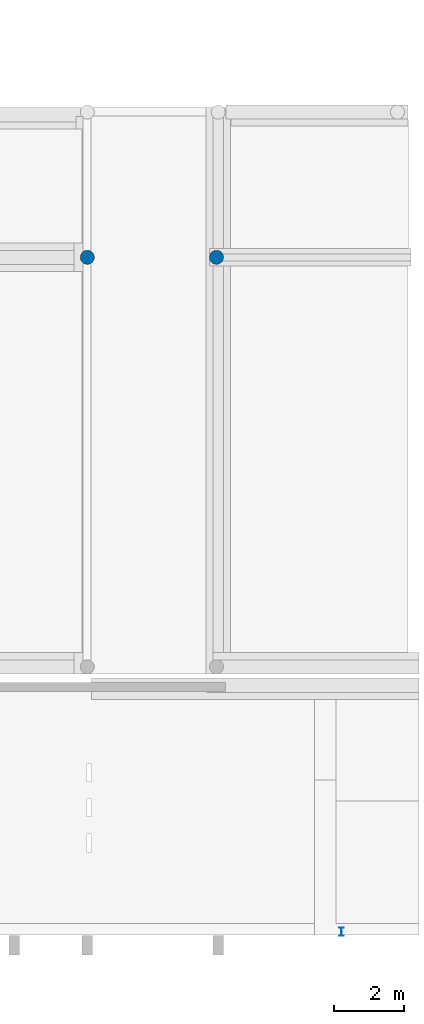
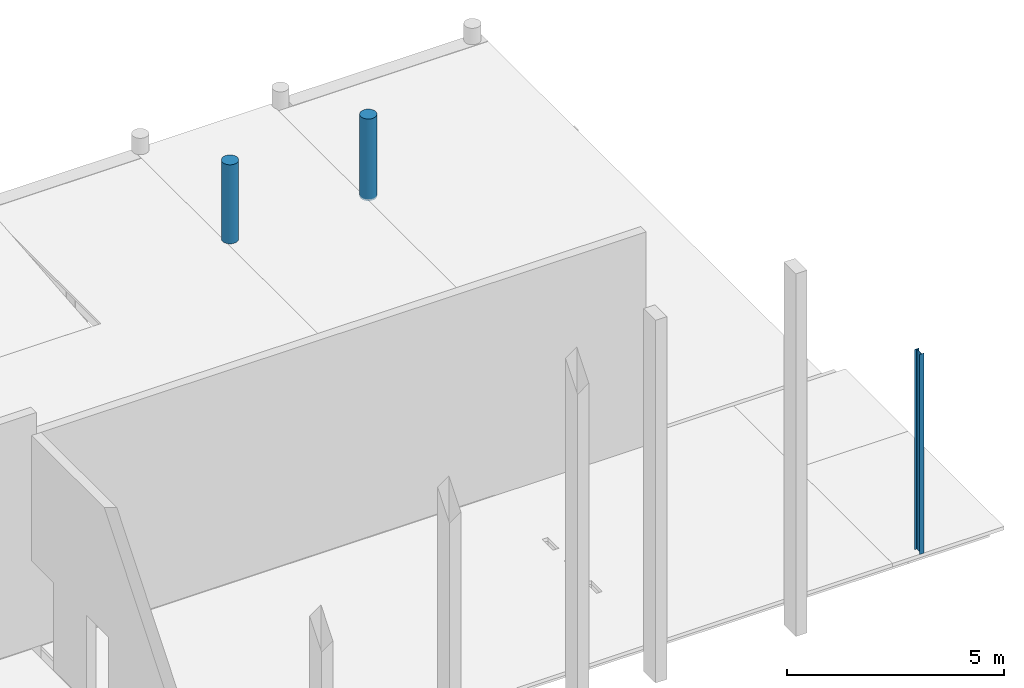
# One storey, part 2 of 9: 3 columns.
"""IFC2X3 building model written with IfcOpenShell, lengths in millimetres."""

from ifc_helpers import new_model, entity, si_unit, converted_unit, derived_unit, direction, frame, frame_2d, origin, place, context, subcontext, project, spatial, polyline, circle_curve, parameter, trimmed, segment, composite_curve, circle, outline, extrude, source, transform, mapped, material, type_object, type_shapes, element, save


model = new_model("IFC2X3")

# Units and contexts
model_context = context("Model", 3, precision=0.01, world=origin(), true_north=direction((6.12303176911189e-17, 1.0)))
body_context = subcontext(model_context, "Body", "Model", "MODEL_VIEW")
ifc_project = project(units=[si_unit("LENGTHUNIT", "METRE", prefix="MILLI"), si_unit("AREAUNIT", "SQUARE_METRE"), si_unit("VOLUMEUNIT", "CUBIC_METRE"), converted_unit("PLANEANGLEUNIT", "DEGREE", entity("IfcRatioMeasure", 0.0174532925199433), si_unit("PLANEANGLEUNIT", "RADIAN"), dimensions=[0, 0, 0, 0, 0, 0, 0]), si_unit("MASSUNIT", "GRAM", prefix="KILO"), derived_unit("MASSDENSITYUNIT", [(si_unit("MASSUNIT", "GRAM", prefix="KILO"), 1), (si_unit("LENGTHUNIT", "METRE"), -3)]), si_unit("TIMEUNIT", "SECOND"), si_unit("FREQUENCYUNIT", "HERTZ"), si_unit("THERMODYNAMICTEMPERATUREUNIT", "DEGREE_CELSIUS"), derived_unit("THERMALTRANSMITTANCEUNIT", [(si_unit("MASSUNIT", "GRAM", prefix="KILO"), 1), (si_unit("THERMODYNAMICTEMPERATUREUNIT", "KELVIN"), -1), (si_unit("TIMEUNIT", "SECOND"), -3)]), derived_unit("VOLUMETRICFLOWRATEUNIT", [(si_unit("LENGTHUNIT", "METRE"), 3), (si_unit("TIMEUNIT", "SECOND"), -1)]), si_unit("ELECTRICCURRENTUNIT", "AMPERE"), si_unit("ELECTRICVOLTAGEUNIT", "VOLT"), si_unit("POWERUNIT", "WATT"), si_unit("FORCEUNIT", "NEWTON", prefix="KILO"), si_unit("ILLUMINANCEUNIT", "LUX"), si_unit("LUMINOUSFLUXUNIT", "LUMEN"), si_unit("LUMINOUSINTENSITYUNIT", "CANDELA"), derived_unit("USERDEFINED", [(si_unit("MASSUNIT", "GRAM", prefix="KILO"), -1), (si_unit("LENGTHUNIT", "METRE"), -2), (si_unit("TIMEUNIT", "SECOND"), 3), (si_unit("LUMINOUSFLUXUNIT", "LUMEN"), 1)]), derived_unit("LINEARVELOCITYUNIT", [(si_unit("LENGTHUNIT", "METRE"), 1), (si_unit("TIMEUNIT", "SECOND"), -1)]), si_unit("PRESSUREUNIT", "PASCAL"), derived_unit("USERDEFINED", [(si_unit("LENGTHUNIT", "METRE"), -2), (si_unit("MASSUNIT", "GRAM", prefix="KILO"), 1), (si_unit("TIMEUNIT", "SECOND"), -2)])], contexts=[model_context])

# Site, building, storey
site_placement = place(None, origin())
site = spatial("IfcSite", under=ifc_project, at=site_placement, Name="Default", CompositionType="ELEMENT")
building_placement = place(site_placement, origin())
building = spatial("IfcBuilding", under=site, at=building_placement, Name="niet gebruiken", CompositionType="ELEMENT")
storey_placement = place(building_placement, frame((0.0, 0.0, 5570.0)))
storey = spatial("IfcBuildingStorey", under=building, at=storey_placement, Name="01b tweede tussenverdieping", CompositionType="ELEMENT", Elevation=5570.0)

# Columns
ifc_material_1 = material(Name="NLRS_f2_beton prefab")
column_type_1 = type_object("IfcColumnType", Name="ø400", PredefinedType="COLUMN", material=ifc_material_1)
shared_shape_1 = source(origin(), body_context, "Body", "SweptSolid", [
    extrude(circle(Radius=200.0, at=frame_2d((1.69197988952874e-14, -3.02923644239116e-13), x_axis=(1.0, 0.0))), frame((0.0, 0.0, 5520.0)), (0.0, 0.0, 1.0), 2299.99999999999),
])
type_shapes(column_type_1, [shared_shape_1])
column_1_placement = place(storey_placement, frame((118750.0, 20846.0, -5570.0)))
element("IfcColumn", 1, at=column_1_placement, inside=storey, type_object=column_type_1, material=ifc_material_1, Name="NLRS_28. kolom rond_gen:ø400", ObjectType="ø400", context=body_context, shape_type="MappedRepresentation", body=[
    mapped(shared_shape_1, transform((0.0, 0.0, 0.0), scale=1.0)),
])
column_type_2 = type_object("IfcColumnType", Name="ø400", PredefinedType="COLUMN", material=ifc_material_1)
shared_shape_2 = source(origin(), body_context, "Body", "SweptSolid", [
    extrude(circle(Radius=200.0, at=frame_2d((1.69197988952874e-14, -3.02923644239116e-13), x_axis=(1.0, 0.0))), frame((0.0, 0.0, 5600.0)), (0.0, 0.0, 1.0), 2219.99999999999),
])
type_shapes(column_type_2, [shared_shape_2])
column_2_placement = place(storey_placement, frame((115075.000813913, 20846.0, -5570.0)))
element("IfcColumn", 2, at=column_2_placement, inside=storey, type_object=column_type_2, material=ifc_material_1, Name="NLRS_28. kolom rond_gen:ø400", ObjectType="ø400", context=body_context, shape_type="MappedRepresentation", body=[
    mapped(shared_shape_2, transform((0.0, 0.0, 0.0), scale=1.0)),
])
ifc_material_2 = material(Name="NLRS_h2_staal")
column_type_3 = type_object("IfcColumnType", Name="kolom IPE 240", PredefinedType="COLUMN", material=ifc_material_2)
shared_shape_3 = source(origin(), body_context, "Body", "SweptSolid", [
    extrude(outline(composite_curve([segment(polyline([(110.199999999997, -60.0), (120.0, -60.0)]), True, "CONTINUOUS"), segment(polyline([(120.0, -60.0), (120.0, 60.0)]), True, "CONTINUOUS"), segment(polyline([(120.0, 60.0), (110.199999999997, 60.0)]), True, "CONTINUOUS"), segment(polyline([(110.199999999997, 60.0), (110.199999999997, 18.0999999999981)]), True, "CONTINUOUS"), segment(trimmed(circle_curve(frame_2d((95.1999999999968, 18.0999999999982), x_axis=(1.0, 0.0)), 15.0), [parameter(270.0)], [parameter(0.0)], True, "PARAMETER"), False, "CONTINUOUS"), segment(polyline([(95.1999999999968, 3.09999999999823), (-95.1999999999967, 3.09999999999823)]), True, "CONTINUOUS"), segment(trimmed(circle_curve(frame_2d((-95.1999999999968, 18.0999999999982), x_axis=(0.0, -1.0)), 15.0), [parameter(270.0)], [parameter(0.0)], True, "PARAMETER"), False, "CONTINUOUS"), segment(polyline([(-110.199999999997, 18.0999999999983), (-110.199999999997, 60.0)]), True, "CONTINUOUS"), segment(polyline([(-110.199999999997, 60.0), (-120.0, 60.0)]), True, "CONTINUOUS"), segment(polyline([(-120.0, 60.0), (-120.0, -60.0)]), True, "CONTINUOUS"), segment(polyline([(-120.0, -60.0), (-110.199999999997, -60.0)]), True, "CONTINUOUS"), segment(polyline([(-110.199999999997, -60.0), (-110.199999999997, -18.1000000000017)]), True, "CONTINUOUS"), segment(trimmed(circle_curve(frame_2d((-95.1999999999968, -18.1000000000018), x_axis=(-1.0, 0.0)), 15.0), [parameter(270.0)], [parameter(0.0)], True, "PARAMETER"), False, "CONTINUOUS"), segment(polyline([(-95.1999999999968, -3.10000000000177), (95.1999999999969, -3.10000000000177)]), True, "CONTINUOUS"), segment(trimmed(circle_curve(frame_2d((95.1999999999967, -18.1000000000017), x_axis=(0.0, 1.0)), 15.0), [parameter(270.0)], [parameter(0.0)], True, "PARAMETER"), False, "CONTINUOUS"), segment(polyline([(110.199999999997, -18.1000000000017), (110.199999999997, -60.0)]), True, "CONTINUOUS")], self_intersect=False)), frame((0.0, 0.0, 5930.0), z_axis=(0.0, 0.0, 1.0), x_axis=(0.0, -1.0, 0.0)), (0.0, 0.0, 1.0), 5618.0),
])
type_shapes(column_type_3, [shared_shape_3])
column_3_placement = place(storey_placement, frame((122310.0, 1657.0, -5570.0)))
element("IfcColumn", 3, at=column_3_placement, inside=storey, type_object=column_type_3, material=ifc_material_2, Name="NLRS_28.11_SCO_TLB_stalen kolom IPE_gen:kolom IPE 240", ObjectType="kolom IPE 240", context=body_context, shape_type="MappedRepresentation", body=[
    mapped(shared_shape_3, transform((0.0, 0.0, 0.0), scale=1.0)),
])

save(model, "model.ifc")
